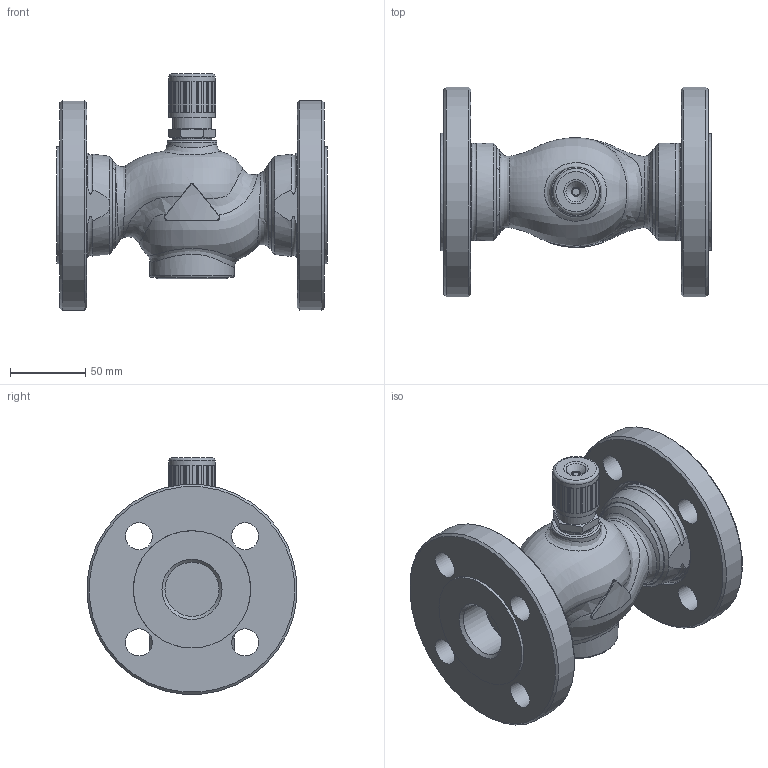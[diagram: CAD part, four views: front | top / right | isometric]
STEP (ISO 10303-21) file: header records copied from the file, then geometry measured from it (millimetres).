
FILE_DESCRIPTION(/* description */ (''),/* implementation_level */ '2;1');
FILE_NAME(/* name */ 'rv111r_dn32_2_F.stp',/* time_stamp */ '2012-02-21T13:51:31+01:00',/* author */ ('KLIMES'),/* organization */ ('LDM'),/* preprocessor_version */ 'ST-DEVELOPER v11',/* originating_system */ 'SIEMENS PLM Software NX 7.0',/* authorisation */ '');
FILE_SCHEMA (('CONFIG_CONTROL_DESIGN'));
Length unit declared in the file: millimetre
Products named in the file (1): klim56BEqbt0
Bounding box: 180 x 139.47 x 157.23 mm (x, y, z)
Volume: 994528 mm3; surface area: 141947.9 mm2
Topology: 4 solids, 4 shells, 292 faces, 676 edges, 433 vertices
Faces by surface type: plane 139, cone 67, cylinder 41, bspline 25, torus 20
Full cylindrical faces by diameter (mm): 8 x1, 18 x8, 23.4 x1, 24.117 x1, 26 x1, 26.5 x1, 30.8 x1, 33 x1, 36 x2, 49 x1, 56 x1, 56.656 x2, 59.614 x2, 60 x2, 78 x2, 140 x2
Entity records: 13674 total; most frequent: CARTESIAN_POINT 7444, DIRECTION 1262, ORIENTED_EDGE 1156, EDGE_CURVE 578, AXIS2_PLACEMENT_3D 519, EDGE_LOOP 424, VERTEX_POINT 406, ADVANCED_FACE 292
